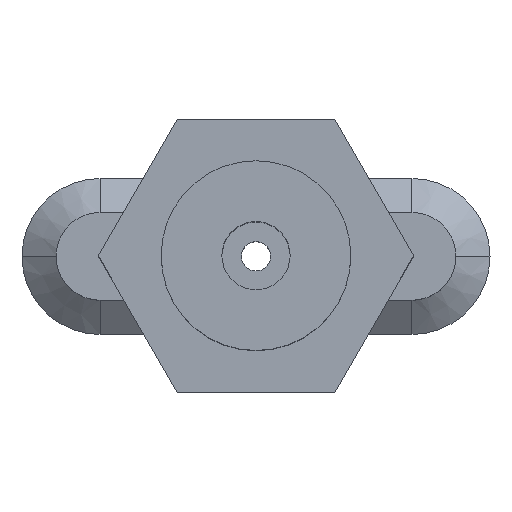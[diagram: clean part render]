
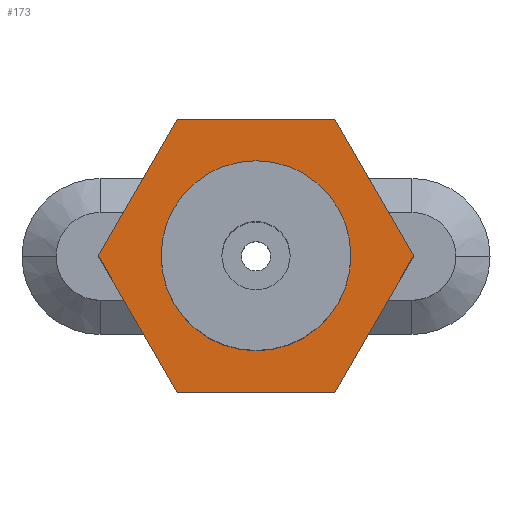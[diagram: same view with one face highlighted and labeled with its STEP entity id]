
A CAD part, top view. The second image highlights one B-rep face of the part: STEP entity #173.
In plain terms, the highlighted planar face has unit normal (0, 0, 1).
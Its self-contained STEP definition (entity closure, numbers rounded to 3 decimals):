
#173=ADVANCED_FACE('NONE',(#352,#353),#354,.T.);
#352=FACE_OUTER_BOUND('',#535,.T.);
#353=FACE_BOUND('',#536,.T.);
#354=PLANE('',#537);
#535=EDGE_LOOP('',(#963,#964,#965,#966,#967,#968));
#536=EDGE_LOOP('',(#969,#970));
#537=AXIS2_PLACEMENT_3D('',#971,#972,#973);
#963=ORIENTED_EDGE('',*,*,#1198,.T.);
#964=ORIENTED_EDGE('',*,*,#1201,.T.);
#965=ORIENTED_EDGE('',*,*,#1183,.T.);
#966=ORIENTED_EDGE('',*,*,#1187,.T.);
#967=ORIENTED_EDGE('',*,*,#1191,.T.);
#968=ORIENTED_EDGE('',*,*,#1194,.T.);
#969=ORIENTED_EDGE('',*,*,#1212,.F.);
#970=ORIENTED_EDGE('',*,*,#1213,.F.);
#971=CARTESIAN_POINT('',(0.,0.,0.0));
#972=DIRECTION('',(0.0,0.0,1.0));
#973=DIRECTION('',(1.0,-0.0,0.0));
#1183=EDGE_CURVE('NONE',#1420,#1424,#1426,.T.);
#1187=EDGE_CURVE('NONE',#1424,#1430,#1432,.T.);
#1191=EDGE_CURVE('NONE',#1430,#1436,#1438,.T.);
#1194=EDGE_CURVE('NONE',#1436,#1440,#1443,.T.);
#1198=EDGE_CURVE('NONE',#1440,#1447,#1449,.T.);
#1201=EDGE_CURVE('NONE',#1447,#1420,#1452,.T.);
#1212=EDGE_CURVE('NONE',#1467,#1468,#1469,.T.);
#1213=EDGE_CURVE('NONE',#1468,#1467,#1470,.T.);
#1420=VERTEX_POINT('NONE',#1859);
#1424=VERTEX_POINT('NONE',#1865);
#1426=LINE('',#1868,#1869);
#1430=VERTEX_POINT('NONE',#1874);
#1432=LINE('',#1877,#1878);
#1436=VERTEX_POINT('NONE',#1883);
#1438=LINE('',#1886,#1887);
#1440=VERTEX_POINT('NONE',#1889);
#1443=LINE('',#1893,#1894);
#1447=VERTEX_POINT('NONE',#1899);
#1449=LINE('',#1902,#1903);
#1452=LINE('',#1907,#1908);
#1467=VERTEX_POINT('NONE',#1926);
#1468=VERTEX_POINT('NONE',#1927);
#1469=CIRCLE('',#1928,4.865);
#1470=CIRCLE('',#1929,4.865);
#1859=CARTESIAN_POINT('',(-4.041,7.0,0.0));
#1865=CARTESIAN_POINT('',(-8.083,0.,0.0));
#1868=CARTESIAN_POINT('',(-4.041,7.0,0.0));
#1869=VECTOR('',#2103,1000.0);
#1874=CARTESIAN_POINT('',(-4.041,-7.0,0.0));
#1877=CARTESIAN_POINT('',(-8.083,0.,0.0));
#1878=VECTOR('',#2106,1000.0);
#1883=CARTESIAN_POINT('',(4.041,-7.0,0.0));
#1886=CARTESIAN_POINT('',(-4.041,-7.0,0.0));
#1887=VECTOR('',#2109,1000.0);
#1889=CARTESIAN_POINT('',(8.083,0.,0.0));
#1893=CARTESIAN_POINT('',(4.041,-7.0,0.0));
#1894=VECTOR('',#2111,1000.0);
#1899=CARTESIAN_POINT('',(4.041,7.0,0.0));
#1902=CARTESIAN_POINT('',(8.083,0.,0.0));
#1903=VECTOR('',#2114,1000.0);
#1907=CARTESIAN_POINT('',(4.041,7.0,0.0));
#1908=VECTOR('',#2116,1000.0);
#1926=CARTESIAN_POINT('',(4.865,0.0,0.0));
#1927=CARTESIAN_POINT('',(-4.865,0.,0.0));
#1928=AXIS2_PLACEMENT_3D('',#2132,#2133,#2134);
#1929=AXIS2_PLACEMENT_3D('',#2135,#2136,#2137);
#2103=DIRECTION('',(-0.5,-0.866,0.0));
#2106=DIRECTION('',(0.5,-0.866,0.0));
#2109=DIRECTION('',(1.0,0.,0.0));
#2111=DIRECTION('',(0.5,0.866,0.0));
#2114=DIRECTION('',(-0.5,0.866,0.0));
#2116=DIRECTION('',(-1.0,0.0,0.0));
#2132=CARTESIAN_POINT('',(0.0,0.0,0.0));
#2133=DIRECTION('',(0.0,0.0,1.0));
#2134=DIRECTION('',(1.0,0.0,0.0));
#2135=CARTESIAN_POINT('',(0.0,0.0,0.0));
#2136=DIRECTION('',(0.0,0.0,1.0));
#2137=DIRECTION('',(1.0,0.0,0.0));
